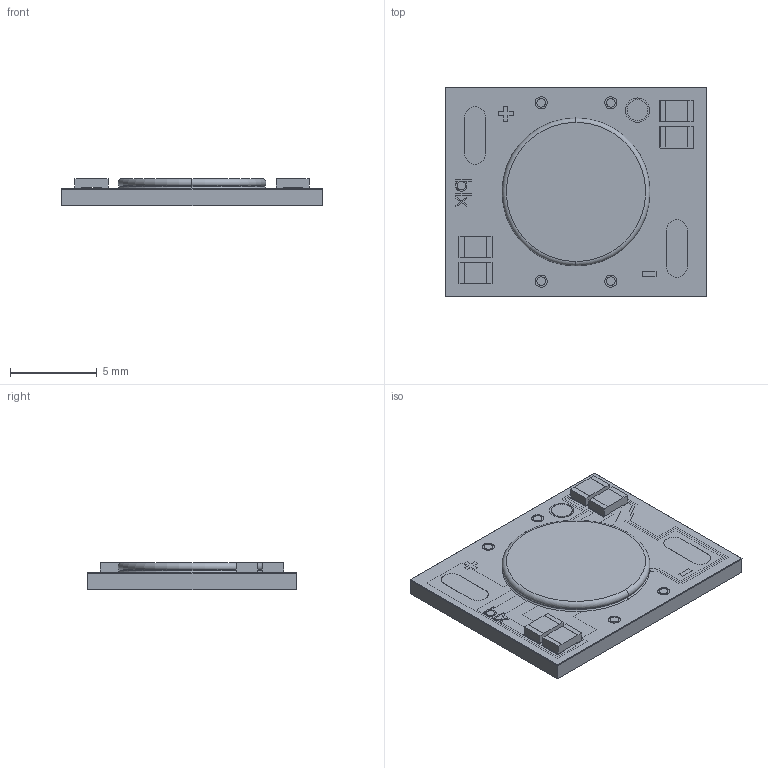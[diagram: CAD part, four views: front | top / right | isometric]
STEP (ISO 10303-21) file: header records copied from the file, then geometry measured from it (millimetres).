
FILE_DESCRIPTION (( 'STEP AP214' ), '1' );
FILE_NAME ('DW6 GEN2 ASSEMBLY-2.STEP', '2022-08-12T05:16:25', ( '' ), ( '' ), 'SwSTEP 2.0', 'SolidWorks 2018', '' );
FILE_SCHEMA (( 'AUTOMOTIVE_DESIGN' ));
Length unit declared in the file: millimetre
Products named in the file (1): DW6 GEN2 ASSEMBLY-2
Bounding box: 15 x 12 x 1.55 mm (x, y, z)
Volume: 201.3 mm3; surface area: 704 mm2
Topology: 1 solids, 1 shells, 301 faces, 823 edges, 542 vertices
Faces by surface type: plane 242, cylinder 45, bspline 8, torus 6
Entity records: 12926 total; most frequent: CARTESIAN_POINT 1851, ORIENTED_EDGE 1646, DIRECTION 1499, EDGE_CURVE 823, LINE 703, VECTOR 703, VERTEX_POINT 542, AXIS2_PLACEMENT_3D 398
